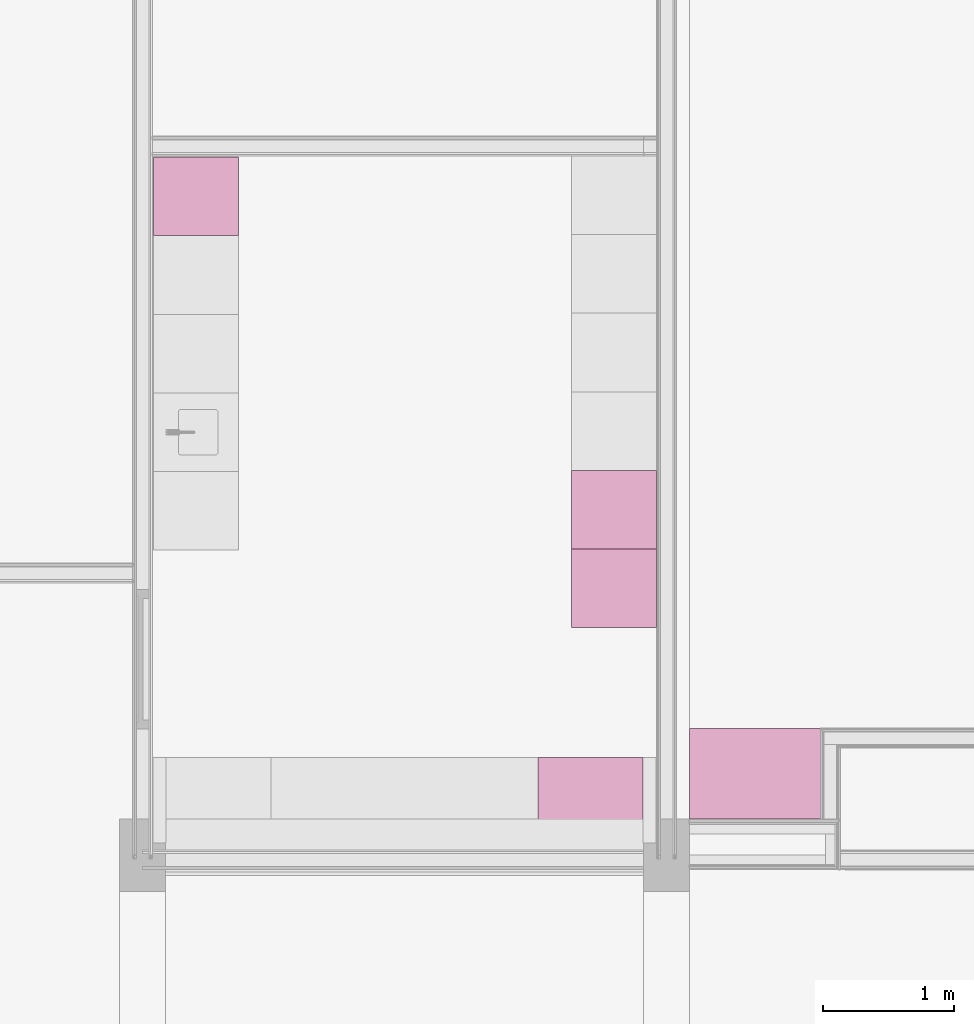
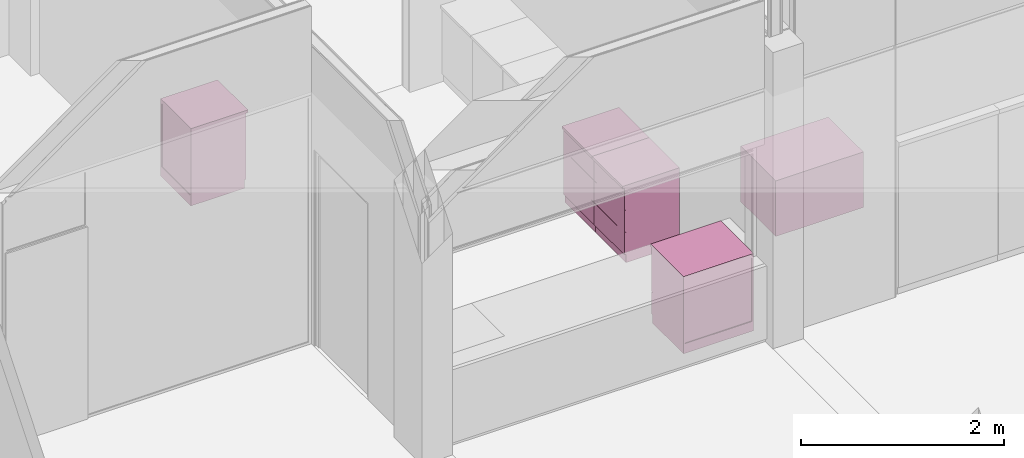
# One storey, part 101 of 109: 5 furnishings.
"""IFC2X3 building model written with IfcOpenShell, lengths in millimetres."""

from ifc_helpers import new_model, entity, si_unit, converted_unit, derived_unit, money_unit, direction, frame, origin_with_axes, place, context, subcontext, project, spatial, faceted_brep, type_object, element, save


model = new_model("IFC2X3")

# Units and contexts
model_context = context("Model", 3, precision=0.01, world=origin_with_axes(), true_north=direction((0.0, 1.0)))
body_context = subcontext(model_context, "Body", "Model", "MODEL_VIEW")
ifc_project = project(units=[si_unit("LENGTHUNIT", "METRE", prefix="MILLI"), si_unit("AREAUNIT", "SQUARE_METRE"), si_unit("VOLUMEUNIT", "CUBIC_METRE"), converted_unit("PLANEANGLEUNIT", "DEGREE", entity("IfcPlaneAngleMeasure", 0.0174532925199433), si_unit("PLANEANGLEUNIT", "RADIAN"), dimensions=[0, 0, 0, 0, 0, 0, 0]), money_unit("EUR"), converted_unit("TIMEUNIT", "Year", entity("IfcTimeMeasure", 31557600.0), si_unit("TIMEUNIT", "SECOND"), dimensions=[0, 0, 1, 0, 0, 0, 0]), si_unit("MASSUNIT", "GRAM", prefix="KILO"), si_unit("THERMODYNAMICTEMPERATUREUNIT", "DEGREE_CELSIUS"), si_unit("LUMINOUSINTENSITYUNIT", "LUMEN"), si_unit("ENERGYUNIT", "JOULE", prefix="MEGA"), derived_unit("THERMALCONDUCTANCEUNIT", [(si_unit("POWERUNIT", "WATT"), 1), (si_unit("LENGTHUNIT", "METRE"), -1), (si_unit("THERMODYNAMICTEMPERATUREUNIT", "KELVIN"), -1)]), derived_unit("SPECIFICHEATCAPACITYUNIT", [(si_unit("ENERGYUNIT", "JOULE"), 1), (si_unit("MASSUNIT", "GRAM", prefix="KILO"), -1), (si_unit("THERMODYNAMICTEMPERATUREUNIT", "KELVIN"), -1)]), derived_unit("MASSDENSITYUNIT", [(si_unit("MASSUNIT", "GRAM", prefix="KILO"), 1), (si_unit("VOLUMEUNIT", "CUBIC_METRE"), -1)])], contexts=[model_context])

# Site, building, storey
site_placement = place(None, origin_with_axes())
site = spatial("IfcSite", under=ifc_project, at=site_placement, Name="<site naam>", CompositionType="ELEMENT")
building_placement = place(site_placement, origin_with_axes())
building = spatial("IfcBuilding", under=site, at=building_placement, Name="<Naam gebouw>", CompositionType="ELEMENT")
storey_placement = place(building_placement, origin_with_axes())
storey = spatial("IfcBuildingStorey", under=building, at=storey_placement, Name="00 Begane grond", CompositionType="ELEMENT", Elevation=0.0)

# Furnishings
furnishing_element_type_1 = type_object("IfcFurnishingElementType", Name="Onderkast recht 27")
furnishing_1_placement = place(storey_placement, frame((24082.81277827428, 17329.00000000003, 0.0), z_axis=(0.0, 0.0, 1.0), x_axis=(0.0, 1.0, 0.0)))
element("IfcFurnishingElement", 1, at=furnishing_1_placement, inside=storey, type_object=furnishing_element_type_1, Name="73_heg_Lege", context=body_context, shape_type="Brep", body=[
    faceted_brep([(0.0, -650.0, 900.0), (0.0, -650.0, 930.0), (-600.0, -650.0, 930.0), (-600.0, -650.0, 900.0), (0.0, 0.0, 900.0), (0.0, 0.0, 930.0), (-600.0, 0.0, 930.0), (-600.0, 0.0, 900.0)], [[[0, 1, 2, 3]], [[4, 5, 1, 0]], [[1, 5, 6, 2]], [[3, 2, 6, 7]], [[0, 3, 7, 4]], [[7, 6, 5, 4]]]),
    faceted_brep([(-1.0, -612.0, 101.0), (-1.0, -630.0, 101.0), (-599.0, -630.0, 101.0), (-599.0, -612.0, 101.0), (-1.0, -612.0, 899.0), (-1.0, -629.9999999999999, 899.0), (-599.0, -629.9999999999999, 899.0), (-599.0, -612.0, 899.0)], [[[0, 1, 2, 3]], [[4, 5, 1, 0]], [[1, 5, 6, 2]], [[3, 2, 6, 7]], [[0, 3, 7, 4]], [[7, 6, 5, 4]]]),
    faceted_brep([(-18.0, -612.0, 100.0), (-18.0, -612.0, 118.0), (-582.0, -612.0, 118.0), (-582.0, -612.0, 100.0), (-18.0, 0.0, 100.0), (-18.0, 0.0, 118.0), (-582.0, 0.0, 118.0), (-582.0, 0.0, 100.0)], [[[0, 1, 2, 3]], [[4, 5, 1, 0]], [[1, 5, 6, 2]], [[3, 2, 6, 7]], [[0, 3, 7, 4]], [[7, 6, 5, 4]]]),
    faceted_brep([(-18.0, -612.0, 882.0), (-582.0, -612.0, 882.0), (-582.0, -552.0, 882.0), (-18.0, -552.0, 882.0), (-18.0, -612.0, 900.0), (-582.0, -612.0, 900.0), (-582.0, -552.0, 900.0), (-18.0, -552.0, 900.0)], [[[0, 1, 2, 3]], [[4, 5, 1, 0]], [[1, 5, 6, 2]], [[3, 2, 6, 7]], [[0, 3, 7, 4]], [[7, 6, 5, 4]]]),
    faceted_brep([(-582.0, 0.0, 882.0), (-18.0, 0.0, 882.0), (-18.0, -60.0, 882.0), (-582.0, -60.0, 882.0), (-582.0, 0.0, 900.0), (-18.0, 0.0, 900.0), (-18.0, -60.0, 900.0), (-582.0, -60.0, 900.0)], [[[0, 1, 2, 3]], [[4, 5, 1, 0]], [[1, 5, 6, 2]], [[3, 2, 6, 7]], [[0, 3, 7, 4]], [[7, 6, 5, 4]]]),
    faceted_brep([(0.0, 0.0, 100.0), (0.0, 0.0, 900.0), (0.0, -612.0, 900.0), (0.0, -612.0, 100.0), (-18.0, 0.0, 100.0), (-18.0, 0.0, 900.0), (-18.0, -612.0, 900.0), (-18.0, -612.0, 100.0)], [[[0, 1, 2, 3]], [[4, 5, 1, 0]], [[1, 5, 6, 2]], [[3, 2, 6, 7]], [[0, 3, 7, 4]], [[7, 6, 5, 4]]]),
    faceted_brep([(-600.0, -612.0, 100.0), (-600.0, -612.0, 900.0), (-600.0, 0.0, 900.0), (-600.0, 0.0, 100.0), (-582.0, -612.0, 100.0), (-582.0, -612.0, 900.0), (-582.0, 0.0, 900.0), (-582.0, 0.0, 100.0)], [[[0, 1, 2, 3]], [[4, 5, 1, 0]], [[1, 5, 6, 2]], [[3, 2, 6, 7]], [[0, 3, 7, 4]], [[7, 6, 5, 4]]]),
    faceted_brep([(-582.0, -9.0, 118.0), (-582.0, -9.0, 882.0), (-18.00000000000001, -9.0, 882.0), (-18.00000000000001, -9.0, 118.0), (-582.0, -18.0, 118.0), (-582.0, -18.0, 882.0), (-18.00000000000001, -18.0, 882.0), (-18.00000000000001, -18.0, 118.0)], [[[0, 1, 2, 3]], [[4, 5, 1, 0]], [[1, 5, 6, 2]], [[3, 2, 6, 7]], [[0, 3, 7, 4]], [[7, 6, 5, 4]]]),
    faceted_brep([(0.0, -612.0, 0.0), (0.0, -612.0, 100.0), (-600.0, -612.0, 100.0), (-600.0, -612.0, 0.0), (0.0, 0.0, 0.0), (0.0, 0.0, 100.0), (-600.0, 0.0, 100.0), (-600.0, 0.0, 0.0)], [[[0, 1, 2, 3]], [[4, 5, 1, 0]], [[1, 5, 6, 2]], [[3, 2, 6, 7]], [[0, 3, 7, 4]], [[7, 6, 5, 4]]]),
])
furnishing_2_placement = place(storey_placement, frame((27925.00000000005, 13737.83062488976, 0.0), z_axis=(0.0, 0.0, 1.0), x_axis=(0.0, -1.0, 0.0)))
element("IfcFurnishingElement", 2, at=furnishing_2_placement, inside=storey, type_object=furnishing_element_type_1, Name="73_heg_Lege", context=body_context, shape_type="Brep", body=[
    faceted_brep([(0.0, -650.0, 900.0), (0.0, -650.0, 930.0), (-600.0, -650.0, 930.0), (-600.0, -650.0, 900.0), (0.0, 0.0, 900.0), (0.0, 0.0, 930.0), (-600.0, 0.0, 930.0), (-600.0, 0.0, 900.0)], [[[0, 1, 2, 3]], [[4, 5, 1, 0]], [[1, 5, 6, 2]], [[3, 2, 6, 7]], [[0, 3, 7, 4]], [[7, 6, 5, 4]]]),
    faceted_brep([(-18.0, -612.0, 357.6666666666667), (-18.0, -612.0, 375.6666666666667), (-582.0, -612.0, 375.6666666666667), (-582.0, -612.0, 357.6666666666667), (-18.0, -18.0, 357.6666666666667), (-18.0, -18.0, 375.6666666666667), (-582.0, -18.0, 375.6666666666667), (-582.0, -18.0, 357.6666666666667)], [[[0, 1, 2, 3]], [[4, 5, 1, 0]], [[1, 5, 6, 2]], [[3, 2, 6, 7]], [[0, 3, 7, 4]], [[7, 6, 5, 4]]]),
    faceted_brep([(-18.0, -612.0, 624.3333333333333), (-18.0, -612.0, 642.3333333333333), (-582.0, -612.0, 642.3333333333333), (-582.0, -612.0, 624.3333333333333), (-18.0, -18.0, 624.3333333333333), (-18.0, -18.0, 642.3333333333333), (-582.0, -18.0, 642.3333333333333), (-582.0, -18.0, 624.3333333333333)], [[[0, 1, 2, 3]], [[4, 5, 1, 0]], [[1, 5, 6, 2]], [[3, 2, 6, 7]], [[0, 3, 7, 4]], [[7, 6, 5, 4]]]),
    faceted_brep([(-1.0, -612.0, 101.0), (-1.0, -630.0, 101.0), (-599.0, -630.0, 101.0), (-599.0, -612.0, 101.0), (-1.0, -612.0, 365.6666666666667), (-1.0, -630.0, 365.6666666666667), (-599.0, -630.0, 365.6666666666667), (-599.0, -612.0, 365.6666666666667)], [[[0, 1, 2, 3]], [[4, 5, 1, 0]], [[1, 5, 6, 2]], [[3, 2, 6, 7]], [[0, 3, 7, 4]], [[7, 6, 5, 4]]]),
    faceted_brep([(-1.0, -612.0, 367.6666666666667), (-1.0, -630.0, 367.6666666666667), (-599.0, -630.0, 367.6666666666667), (-599.0, -612.0, 367.6666666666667), (-1.0, -612.0, 632.3333333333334), (-1.0, -630.0, 632.3333333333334), (-599.0, -630.0, 632.3333333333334), (-599.0, -612.0, 632.3333333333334)], [[[0, 1, 2, 3]], [[4, 5, 1, 0]], [[1, 5, 6, 2]], [[3, 2, 6, 7]], [[0, 3, 7, 4]], [[7, 6, 5, 4]]]),
    faceted_brep([(-1.0, -612.0, 634.3333333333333), (-1.0, -630.0, 634.3333333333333), (-599.0, -630.0, 634.3333333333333), (-599.0, -612.0, 634.3333333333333), (-1.0, -612.0, 899.0), (-1.0, -630.0, 899.0), (-599.0, -630.0, 899.0), (-599.0, -612.0, 899.0)], [[[0, 1, 2, 3]], [[4, 5, 1, 0]], [[1, 5, 6, 2]], [[3, 2, 6, 7]], [[0, 3, 7, 4]], [[7, 6, 5, 4]]]),
    faceted_brep([(-18.0, -612.0, 100.0), (-18.0, -612.0, 118.0), (-582.0, -612.0, 118.0), (-582.0, -612.0, 100.0), (-18.0, 0.0, 100.0), (-18.0, 0.0, 118.0), (-582.0, 0.0, 118.0), (-582.0, 0.0, 100.0)], [[[0, 1, 2, 3]], [[4, 5, 1, 0]], [[1, 5, 6, 2]], [[3, 2, 6, 7]], [[0, 3, 7, 4]], [[7, 6, 5, 4]]]),
    faceted_brep([(-18.0, -612.0, 882.0), (-582.0, -612.0, 882.0), (-582.0, -552.0, 882.0), (-18.0, -552.0, 882.0), (-18.0, -612.0, 900.0), (-582.0, -612.0, 900.0), (-582.0, -552.0, 900.0), (-18.0, -552.0, 900.0)], [[[0, 1, 2, 3]], [[4, 5, 1, 0]], [[1, 5, 6, 2]], [[3, 2, 6, 7]], [[0, 3, 7, 4]], [[7, 6, 5, 4]]]),
    faceted_brep([(-582.0, 0.0, 882.0), (-18.0, 0.0, 882.0), (-18.0, -60.0, 882.0), (-582.0, -60.0, 882.0), (-582.0, 0.0, 900.0), (-18.0, 0.0, 900.0), (-18.0, -60.0, 900.0), (-582.0, -60.0, 900.0)], [[[0, 1, 2, 3]], [[4, 5, 1, 0]], [[1, 5, 6, 2]], [[3, 2, 6, 7]], [[0, 3, 7, 4]], [[7, 6, 5, 4]]]),
    faceted_brep([(0.0, 0.0, 100.0), (0.0, 0.0, 900.0), (0.0, -612.0, 900.0), (0.0, -612.0, 100.0), (-18.0, 0.0, 100.0), (-18.0, 0.0, 900.0), (-18.0, -612.0, 900.0), (-18.0, -612.0, 100.0)], [[[0, 1, 2, 3]], [[4, 5, 1, 0]], [[1, 5, 6, 2]], [[3, 2, 6, 7]], [[0, 3, 7, 4]], [[7, 6, 5, 4]]]),
    faceted_brep([(-600.0, -612.0, 100.0), (-600.0, -612.0, 900.0), (-600.0, 0.0, 900.0), (-600.0, 0.0, 100.0), (-582.0, -612.0, 100.0), (-582.0, -612.0, 900.0), (-582.0, 0.0, 900.0), (-582.0, 0.0, 100.0)], [[[0, 1, 2, 3]], [[4, 5, 1, 0]], [[1, 5, 6, 2]], [[3, 2, 6, 7]], [[0, 3, 7, 4]], [[7, 6, 5, 4]]]),
    faceted_brep([(-582.0, -9.0, 118.0), (-582.0, -9.0, 882.0), (-18.00000000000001, -9.0, 882.0), (-18.00000000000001, -9.0, 118.0), (-582.0, -18.0, 118.0), (-582.0, -18.0, 882.0), (-18.00000000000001, -18.0, 882.0), (-18.00000000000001, -18.0, 118.0)], [[[0, 1, 2, 3]], [[4, 5, 1, 0]], [[1, 5, 6, 2]], [[3, 2, 6, 7]], [[0, 3, 7, 4]], [[7, 6, 5, 4]]]),
    faceted_brep([(0.0, -612.0, 0.0), (0.0, -612.0, 100.0), (-600.0, -612.0, 100.0), (-600.0, -612.0, 0.0), (0.0, 0.0, 0.0), (0.0, 0.0, 100.0), (-600.0, 0.0, 100.0), (-600.0, 0.0, 0.0)], [[[0, 1, 2, 3]], [[4, 5, 1, 0]], [[1, 5, 6, 2]], [[3, 2, 6, 7]], [[0, 3, 7, 4]], [[7, 6, 5, 4]]]),
])
furnishing_3_placement = place(storey_placement, frame((27925.00000000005, 14337.83062488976, 0.0), z_axis=(0.0, 0.0, 1.0), x_axis=(0.0, -1.0, 0.0)))
element("IfcFurnishingElement", 3, at=furnishing_3_placement, inside=storey, type_object=furnishing_element_type_1, Name="73_heg_Lege", context=body_context, shape_type="Brep", body=[
    faceted_brep([(0.0, -650.0, 900.0), (0.0, -650.0, 930.0), (-600.0, -650.0, 930.0), (-600.0, -650.0, 900.0), (0.0, 0.0, 900.0), (0.0, 0.0, 930.0), (-600.0, 0.0, 930.0), (-600.0, 0.0, 900.0)], [[[0, 1, 2, 3]], [[4, 5, 1, 0]], [[1, 5, 6, 2]], [[3, 2, 6, 7]], [[0, 3, 7, 4]], [[7, 6, 5, 4]]]),
    faceted_brep([(-18.0, -612.0, 357.6666666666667), (-18.0, -612.0, 375.6666666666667), (-582.0, -612.0, 375.6666666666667), (-582.0, -612.0, 357.6666666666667), (-18.0, -18.0, 357.6666666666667), (-18.0, -18.0, 375.6666666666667), (-582.0, -18.0, 375.6666666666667), (-582.0, -18.0, 357.6666666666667)], [[[0, 1, 2, 3]], [[4, 5, 1, 0]], [[1, 5, 6, 2]], [[3, 2, 6, 7]], [[0, 3, 7, 4]], [[7, 6, 5, 4]]]),
    faceted_brep([(-18.0, -612.0, 624.3333333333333), (-18.0, -612.0, 642.3333333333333), (-582.0, -612.0, 642.3333333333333), (-582.0, -612.0, 624.3333333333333), (-18.0, -18.0, 624.3333333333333), (-18.0, -18.0, 642.3333333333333), (-582.0, -18.0, 642.3333333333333), (-582.0, -18.0, 624.3333333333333)], [[[0, 1, 2, 3]], [[4, 5, 1, 0]], [[1, 5, 6, 2]], [[3, 2, 6, 7]], [[0, 3, 7, 4]], [[7, 6, 5, 4]]]),
    faceted_brep([(-1.0, -612.0, 101.0), (-1.0, -630.0, 101.0), (-599.0, -630.0, 101.0), (-599.0, -612.0, 101.0), (-1.0, -612.0, 365.6666666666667), (-1.0, -630.0, 365.6666666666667), (-599.0, -630.0, 365.6666666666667), (-599.0, -612.0, 365.6666666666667)], [[[0, 1, 2, 3]], [[4, 5, 1, 0]], [[1, 5, 6, 2]], [[3, 2, 6, 7]], [[0, 3, 7, 4]], [[7, 6, 5, 4]]]),
    faceted_brep([(-1.0, -612.0, 367.6666666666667), (-1.0, -630.0, 367.6666666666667), (-599.0, -630.0, 367.6666666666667), (-599.0, -612.0, 367.6666666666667), (-1.0, -612.0, 632.3333333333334), (-1.0, -630.0, 632.3333333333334), (-599.0, -630.0, 632.3333333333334), (-599.0, -612.0, 632.3333333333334)], [[[0, 1, 2, 3]], [[4, 5, 1, 0]], [[1, 5, 6, 2]], [[3, 2, 6, 7]], [[0, 3, 7, 4]], [[7, 6, 5, 4]]]),
    faceted_brep([(-1.0, -612.0, 634.3333333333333), (-1.0, -630.0, 634.3333333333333), (-599.0, -630.0, 634.3333333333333), (-599.0, -612.0, 634.3333333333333), (-1.0, -612.0, 899.0), (-1.0, -630.0, 899.0), (-599.0, -630.0, 899.0), (-599.0, -612.0, 899.0)], [[[0, 1, 2, 3]], [[4, 5, 1, 0]], [[1, 5, 6, 2]], [[3, 2, 6, 7]], [[0, 3, 7, 4]], [[7, 6, 5, 4]]]),
    faceted_brep([(-18.0, -612.0, 100.0), (-18.0, -612.0, 118.0), (-582.0, -612.0, 118.0), (-582.0, -612.0, 100.0), (-18.0, 0.0, 100.0), (-18.0, 0.0, 118.0), (-582.0, 0.0, 118.0), (-582.0, 0.0, 100.0)], [[[0, 1, 2, 3]], [[4, 5, 1, 0]], [[1, 5, 6, 2]], [[3, 2, 6, 7]], [[0, 3, 7, 4]], [[7, 6, 5, 4]]]),
    faceted_brep([(-18.0, -612.0, 882.0), (-582.0, -612.0, 882.0), (-582.0, -552.0, 882.0), (-18.0, -552.0, 882.0), (-18.0, -612.0, 900.0), (-582.0, -612.0, 900.0), (-582.0, -552.0, 900.0), (-18.0, -552.0, 900.0)], [[[0, 1, 2, 3]], [[4, 5, 1, 0]], [[1, 5, 6, 2]], [[3, 2, 6, 7]], [[0, 3, 7, 4]], [[7, 6, 5, 4]]]),
    faceted_brep([(-582.0, 0.0, 882.0), (-18.0, 0.0, 882.0), (-18.0, -60.0, 882.0), (-582.0, -60.0, 882.0), (-582.0, 0.0, 900.0), (-18.0, 0.0, 900.0), (-18.0, -60.0, 900.0), (-582.0, -60.0, 900.0)], [[[0, 1, 2, 3]], [[4, 5, 1, 0]], [[1, 5, 6, 2]], [[3, 2, 6, 7]], [[0, 3, 7, 4]], [[7, 6, 5, 4]]]),
    faceted_brep([(0.0, 0.0, 100.0), (0.0, 0.0, 900.0), (0.0, -612.0, 900.0), (0.0, -612.0, 100.0), (-18.0, 0.0, 100.0), (-18.0, 0.0, 900.0), (-18.0, -612.0, 900.0), (-18.0, -612.0, 100.0)], [[[0, 1, 2, 3]], [[4, 5, 1, 0]], [[1, 5, 6, 2]], [[3, 2, 6, 7]], [[0, 3, 7, 4]], [[7, 6, 5, 4]]]),
    faceted_brep([(-600.0, -612.0, 100.0), (-600.0, -612.0, 900.0), (-600.0, 0.0, 900.0), (-600.0, 0.0, 100.0), (-582.0, -612.0, 100.0), (-582.0, -612.0, 900.0), (-582.0, 0.0, 900.0), (-582.0, 0.0, 100.0)], [[[0, 1, 2, 3]], [[4, 5, 1, 0]], [[1, 5, 6, 2]], [[3, 2, 6, 7]], [[0, 3, 7, 4]], [[7, 6, 5, 4]]]),
    faceted_brep([(-582.0, -9.0, 118.0), (-582.0, -9.0, 882.0), (-18.00000000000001, -9.0, 882.0), (-18.00000000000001, -9.0, 118.0), (-582.0, -18.0, 118.0), (-582.0, -18.0, 882.0), (-18.00000000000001, -18.0, 882.0), (-18.00000000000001, -18.0, 118.0)], [[[0, 1, 2, 3]], [[4, 5, 1, 0]], [[1, 5, 6, 2]], [[3, 2, 6, 7]], [[0, 3, 7, 4]], [[7, 6, 5, 4]]]),
    faceted_brep([(0.0, -612.0, 0.0), (0.0, -612.0, 100.0), (-600.0, -612.0, 100.0), (-600.0, -612.0, 0.0), (0.0, 0.0, 0.0), (0.0, 0.0, 100.0), (-600.0, 0.0, 100.0), (-600.0, 0.0, 0.0)], [[[0, 1, 2, 3]], [[4, 5, 1, 0]], [[1, 5, 6, 2]], [[3, 2, 6, 7]], [[0, 3, 7, 4]], [[7, 6, 5, 4]]]),
])
furnishing_4_placement = place(storey_placement, frame((27020.00000000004, 12094.67036517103, 0.0), z_axis=(0.0, 0.0, 1.0), x_axis=(-1.0, 0.0, 0.0)))
element("IfcFurnishingElement", 4, at=furnishing_4_placement, inside=storey, type_object=furnishing_element_type_1, Name="73_heg_Lege", context=body_context, shape_type="Brep", body=[
    faceted_brep([(0.0, -650.0, 900.0), (0.0, -650.0, 930.0), (-800.0, -650.0, 930.0), (-800.0, -650.0, 900.0), (0.0, 0.0, 900.0), (0.0, 0.0, 930.0), (-800.0, 0.0, 930.0), (-800.0, 0.0, 900.0)], [[[0, 1, 2, 3]], [[4, 5, 1, 0]], [[1, 5, 6, 2]], [[3, 2, 6, 7]], [[0, 3, 7, 4]], [[7, 6, 5, 4]]]),
    faceted_brep([(-18.0, -612.0, 357.6666666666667), (-18.0, -612.0, 375.6666666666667), (-782.0, -612.0, 375.6666666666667), (-782.0, -612.0, 357.6666666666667), (-18.0, -18.0, 357.6666666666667), (-18.0, -18.0, 375.6666666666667), (-782.0, -18.0, 375.6666666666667), (-782.0, -18.0, 357.6666666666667)], [[[0, 1, 2, 3]], [[4, 5, 1, 0]], [[1, 5, 6, 2]], [[3, 2, 6, 7]], [[0, 3, 7, 4]], [[7, 6, 5, 4]]]),
    faceted_brep([(-18.0, -612.0, 624.3333333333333), (-18.0, -612.0, 642.3333333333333), (-782.0, -612.0, 642.3333333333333), (-782.0, -612.0, 624.3333333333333), (-18.0, -18.0, 624.3333333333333), (-18.0, -18.0, 642.3333333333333), (-782.0, -18.0, 642.3333333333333), (-782.0, -18.0, 624.3333333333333)], [[[0, 1, 2, 3]], [[4, 5, 1, 0]], [[1, 5, 6, 2]], [[3, 2, 6, 7]], [[0, 3, 7, 4]], [[7, 6, 5, 4]]]),
    faceted_brep([(-1.0, -612.0, 101.0), (-1.0, -630.0, 101.0), (-799.0, -630.0, 101.0), (-799.0, -612.0, 101.0), (-1.0, -612.0, 365.6666666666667), (-1.0, -630.0, 365.6666666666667), (-799.0, -630.0, 365.6666666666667), (-799.0, -612.0, 365.6666666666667)], [[[0, 1, 2, 3]], [[4, 5, 1, 0]], [[1, 5, 6, 2]], [[3, 2, 6, 7]], [[0, 3, 7, 4]], [[7, 6, 5, 4]]]),
    faceted_brep([(-1.0, -612.0, 367.6666666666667), (-1.0, -630.0, 367.6666666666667), (-799.0, -630.0, 367.6666666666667), (-799.0, -612.0, 367.6666666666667), (-1.0, -612.0, 632.3333333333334), (-1.0, -630.0, 632.3333333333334), (-799.0, -630.0, 632.3333333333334), (-799.0, -612.0, 632.3333333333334)], [[[0, 1, 2, 3]], [[4, 5, 1, 0]], [[1, 5, 6, 2]], [[3, 2, 6, 7]], [[0, 3, 7, 4]], [[7, 6, 5, 4]]]),
    faceted_brep([(-1.0, -612.0, 634.3333333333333), (-1.0, -630.0, 634.3333333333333), (-799.0, -630.0, 634.3333333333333), (-799.0, -612.0, 634.3333333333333), (-1.0, -612.0, 899.0), (-1.0, -630.0, 899.0), (-799.0, -630.0, 899.0), (-799.0, -612.0, 899.0)], [[[0, 1, 2, 3]], [[4, 5, 1, 0]], [[1, 5, 6, 2]], [[3, 2, 6, 7]], [[0, 3, 7, 4]], [[7, 6, 5, 4]]]),
    faceted_brep([(-18.0, -612.0, 100.0), (-18.0, -612.0, 118.0), (-782.0, -612.0, 118.0), (-782.0, -612.0, 100.0), (-18.0, 0.0, 100.0), (-18.0, 0.0, 118.0), (-782.0, 0.0, 118.0), (-782.0, 0.0, 100.0)], [[[0, 1, 2, 3]], [[4, 5, 1, 0]], [[1, 5, 6, 2]], [[3, 2, 6, 7]], [[0, 3, 7, 4]], [[7, 6, 5, 4]]]),
    faceted_brep([(-18.0, -612.0, 882.0), (-782.0, -612.0, 882.0), (-782.0, -552.0, 882.0), (-18.0, -552.0, 882.0), (-18.0, -612.0, 900.0), (-782.0, -612.0, 900.0), (-782.0, -552.0, 900.0), (-18.0, -552.0, 900.0)], [[[0, 1, 2, 3]], [[4, 5, 1, 0]], [[1, 5, 6, 2]], [[3, 2, 6, 7]], [[0, 3, 7, 4]], [[7, 6, 5, 4]]]),
    faceted_brep([(-782.0, 0.0, 882.0), (-18.0, 0.0, 882.0), (-18.0, -60.0, 882.0), (-782.0, -60.0, 882.0), (-782.0, 0.0, 900.0), (-18.0, 0.0, 900.0), (-18.0, -60.0, 900.0), (-782.0, -60.0, 900.0)], [[[0, 1, 2, 3]], [[4, 5, 1, 0]], [[1, 5, 6, 2]], [[3, 2, 6, 7]], [[0, 3, 7, 4]], [[7, 6, 5, 4]]]),
    faceted_brep([(0.0, 0.0, 100.0), (0.0, 0.0, 900.0), (0.0, -612.0, 900.0), (0.0, -612.0, 100.0), (-18.0, 0.0, 100.0), (-18.0, 0.0, 900.0), (-18.0, -612.0, 900.0), (-18.0, -612.0, 100.0)], [[[0, 1, 2, 3]], [[4, 5, 1, 0]], [[1, 5, 6, 2]], [[3, 2, 6, 7]], [[0, 3, 7, 4]], [[7, 6, 5, 4]]]),
    faceted_brep([(-800.0, -612.0, 100.0), (-800.0, -612.0, 900.0), (-800.0, 0.0, 900.0), (-800.0, 0.0, 100.0), (-782.0, -612.0, 100.0), (-782.0, -612.0, 900.0), (-782.0, 0.0, 900.0), (-782.0, 0.0, 100.0)], [[[0, 1, 2, 3]], [[4, 5, 1, 0]], [[1, 5, 6, 2]], [[3, 2, 6, 7]], [[0, 3, 7, 4]], [[7, 6, 5, 4]]]),
    faceted_brep([(-782.0, -9.0, 118.0), (-782.0, -9.0, 882.0), (-18.00000000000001, -9.0, 882.0), (-18.00000000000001, -9.0, 118.0), (-782.0, -18.0, 118.0), (-782.0, -18.0, 882.0), (-18.00000000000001, -18.0, 882.0), (-18.00000000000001, -18.0, 118.0)], [[[0, 1, 2, 3]], [[4, 5, 1, 0]], [[1, 5, 6, 2]], [[3, 2, 6, 7]], [[0, 3, 7, 4]], [[7, 6, 5, 4]]]),
    faceted_brep([(0.0, -612.0, 0.0), (0.0, -612.0, 100.0), (-800.0, -612.0, 100.0), (-800.0, -612.0, 0.0), (0.0, 0.0, 0.0), (0.0, 0.0, 100.0), (-800.0, 0.0, 100.0), (-800.0, 0.0, 0.0)], [[[0, 1, 2, 3]], [[4, 5, 1, 0]], [[1, 5, 6, 2]], [[3, 2, 6, 7]], [[0, 3, 7, 4]], [[7, 6, 5, 4]]]),
])
furnishing_element_type_2 = type_object("IfcFurnishingElementType", Name="Ontwerp kast 27 KM")
furnishing_5_placement = place(storey_placement, frame((29174.38190929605, 12969.24969002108, 900.0), z_axis=(0.0, 0.0, 1.0), x_axis=(0.0, 1.0, 0.0)))
element("IfcFurnishingElement", 5, at=furnishing_5_placement, inside=storey, type_object=furnishing_element_type_2, Name="73_Object-x_Lege", context=body_context, shape_type="Brep", body=[
    faceted_brep([(-694.2496900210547, 0.0, 0.0), (-694.2496900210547, 999.3819092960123, 0.0), (0.0, 999.3819092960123, 0.0), (0.0, 0.0, 0.0), (-694.2496900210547, 0.0, 670.0), (-694.2496900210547, 999.3819092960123, 670.0), (0.0, 999.3819092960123, 670.0), (0.0, 0.0, 670.0)], [[[0, 1, 2, 3]], [[0, 4, 5, 1]], [[1, 5, 6, 2]], [[2, 6, 7, 3]], [[3, 7, 4, 0]], [[7, 6, 5, 4]]]),
    faceted_brep([(-664.2496900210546, 30.0, 30.0), (-664.2496900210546, 969.3819092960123, 30.0), (-30.0, 969.3819092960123, 30.0), (-30.0, 30.0, 30.0), (-664.2496900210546, 30.0, 640.0000000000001), (-664.2496900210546, 969.3819092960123, 640.0000000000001), (-30.0, 969.3819092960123, 640.0000000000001), (-30.0, 30.0, 640.0000000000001)], [[[0, 1, 2, 3]], [[0, 4, 5, 1]], [[1, 5, 6, 2]], [[2, 6, 7, 3]], [[3, 7, 4, 0]], [[7, 6, 5, 4]]]),
])

save(model, "model.ifc")
